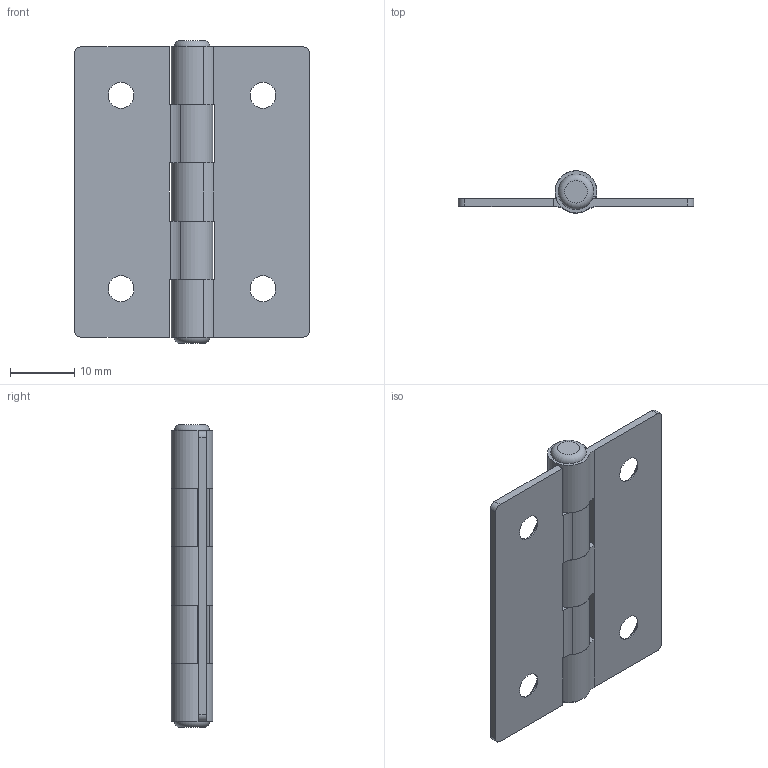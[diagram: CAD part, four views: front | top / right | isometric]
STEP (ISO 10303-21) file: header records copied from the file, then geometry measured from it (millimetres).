
FILE_DESCRIPTION(/* description */ (''),/* implementation_level */ '2;1');
FILE_NAME(/* name */ '\\NAS\db20\HD4536-12\DR_HD4536-12.stp',/* time_stamp */ '2017-08-10T16:09:40+09:00',/* author */ ('user'),/* organization */ (''),/* preprocessor_version */ 'ST-DEVELOPER v15.6',/* originating_system */ 'Autodesk Inventor 2015',/* authorisation */ '');
FILE_SCHEMA (('AUTOMOTIVE_DESIGN { 1 0 10303 214 3 1 1 }'));
Length unit declared in the file: millimetre
Products named in the file (1): DR_HD4536-12
Bounding box: 36.5 x 6.49 x 47 mm (x, y, z)
Volume: 3042 mm3; surface area: 5261.2 mm2
Topology: 3 solids, 3 shells, 67 faces, 177 edges, 118 vertices
Faces by surface type: plane 32, cylinder 29, cone 4, torus 2
Full cylindrical faces by diameter (mm): 4 x4, 4.1 x1
Entity records: 2044 total; most frequent: DIRECTION 364, CARTESIAN_POINT 344, ORIENTED_EDGE 324, EDGE_CURVE 162, AXIS2_PLACEMENT_3D 134, VERTEX_POINT 114, LINE 96, VECTOR 96
